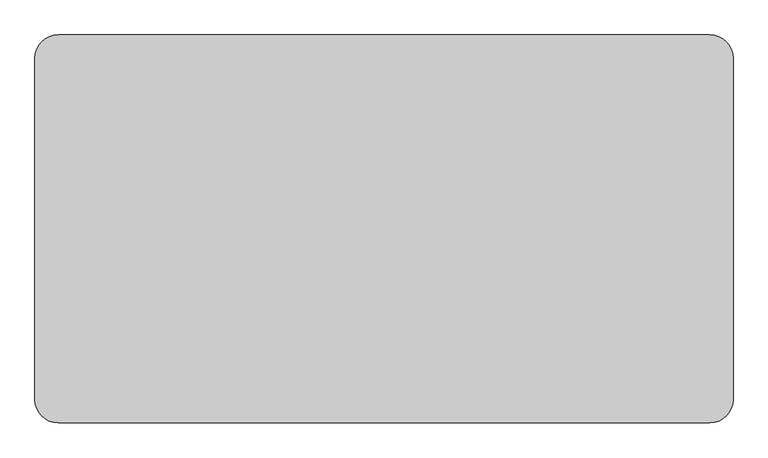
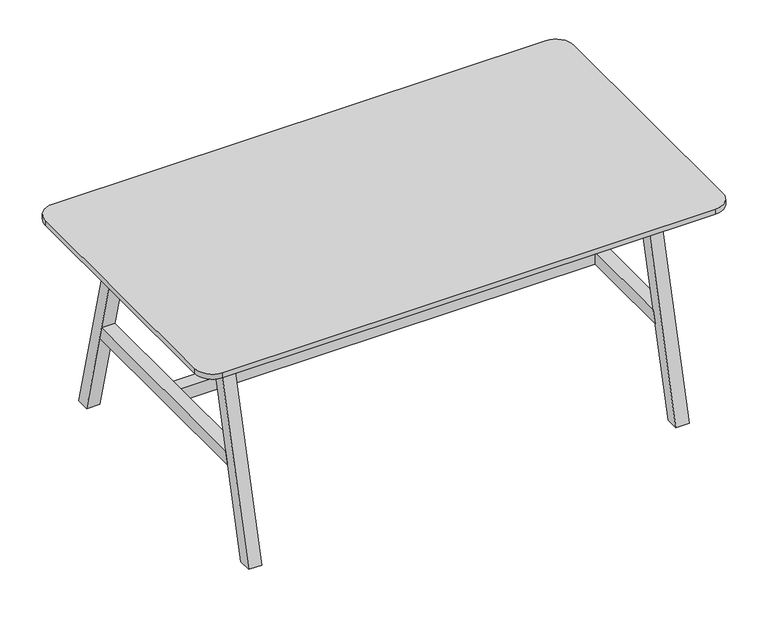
"""IFC4 building model written with IfcOpenShell, lengths in millimetres: furniture geometry, BDG_BossDesign_Tbls_AgentTables4Legs : AGE-DT-1800-1000-3D."""

import ifcopenshell
import ifcopenshell.guid

model = None  # the IFC model being written
_history = None  # IfcOwnerHistory: only IFC2X3 demands one
_inside = {}  # id of a spatial element -> (the spatial element, [elements in it])
_under = {}  # id of a project, library or spatial element -> (it, [spatial elements below it])
_declared = {}  # id of a project -> (the project, [libraries it declares])
_typed = {}  # id of a type object -> (the type object, [elements of that type])
_made_of = {}  # id of a material, layer set ... -> (it, [elements and type objects made of it])


def new_model(schema):
    """Start an empty IFC model of exactly this schema.

    Asked for "IFC4X3", IfcOpenShell would pick the latest addendum, in which some entities
    have other attributes; the version numbers below select the first issue.
    IFC2X3 requires an IfcOwnerHistory on every rooted entity: one is made here for all.
    """
    global model, _history
    if schema == "IFC4X3":
        model = ifcopenshell.file(schema_version=(4, 3, 0, 0))
    else:
        model = ifcopenshell.file(schema=schema)
    _inside.clear()
    _under.clear()
    _declared.clear()
    _typed.clear()
    _made_of.clear()
    _history = None
    if model.schema == "IFC2X3":
        org = make("IfcOrganization", Name="unknown")
        user = make(
            "IfcPersonAndOrganization",
            ThePerson=make("IfcPerson", FamilyName="unknown"),
            TheOrganization=org,
        )
        app = make(
            "IfcApplication",
            ApplicationDeveloper=org,
            Version="unknown",
            ApplicationFullName="unknown",
            ApplicationIdentifier="unknown",
        )
        _history = make(
            "IfcOwnerHistory",
            OwningUser=user,
            OwningApplication=app,
            ChangeAction="ADDED",
            CreationDate=0,
        )
    return model


def make(cls, **values):
    """One entity of the class cls with the attributes given. An attribute that is None is left unset."""
    return model.create_entity(
        cls, **{name: value for name, value in values.items() if value is not None}
    )


def rooted(cls, **values):
    """An entity with a GlobalId (a new one), such as an element, a storey or a relation."""
    return make(cls, GlobalId=ifcopenshell.guid.new(), OwnerHistory=_history, **values)


def si_unit(unit_type, name, prefix=None):
    """IfcSIUnit, for example si_unit("LENGTHUNIT", "METRE", prefix="MILLI")."""
    return make("IfcSIUnit", UnitType=unit_type, Prefix=prefix, Name=name)


def assignment(units):
    """IfcUnitAssignment: the units of a project."""
    return None if units is None else make("IfcUnitAssignment", Units=units)


def point(xyz):
    """IfcCartesianPoint."""
    return None if xyz is None else make("IfcCartesianPoint", Coordinates=xyz)


def direction(xyz):
    """IfcDirection."""
    return None if xyz is None else make("IfcDirection", DirectionRatios=xyz)


def frame(location, z_axis=None, x_axis=None):
    """IfcAxis2Placement3D, a coordinate frame: its origin and axes. An axis left out is left unset."""
    return make(
        "IfcAxis2Placement3D",
        Location=point(location),
        Axis=direction(z_axis),
        RefDirection=direction(x_axis),
    )


def frame_2d(location, x_axis=None):
    """IfcAxis2Placement2D, a coordinate frame in the plane: its origin and x axis."""
    return make(
        "IfcAxis2Placement2D", Location=point(location), RefDirection=direction(x_axis)
    )


def origin():
    """The frame at (0, 0, 0) with its axes left unset."""
    return frame((0.0, 0.0, 0.0))


def place(relative_to, where):
    """IfcLocalPlacement: puts the frame where relative to a parent placement (None: the world)."""
    return make(
        "IfcLocalPlacement", PlacementRelTo=relative_to, RelativePlacement=where
    )


def context(
    kind, dimensions, precision=None, world=None, true_north=None, identifier=None
):
    """IfcGeometricRepresentationContext, for example the 3D "Model" context."""
    return make(
        "IfcGeometricRepresentationContext",
        ContextIdentifier=identifier,
        ContextType=kind,
        CoordinateSpaceDimension=dimensions,
        Precision=precision,
        WorldCoordinateSystem=world,
        TrueNorth=true_north,
    )


def project(units=None, contexts=None):
    """IfcProject with its units and contexts."""
    return rooted(
        "IfcProject",
        Name="project",
        RepresentationContexts=contexts,
        UnitsInContext=assignment(units),
    )


def spatial(cls, under=None, at=None, **own):
    """A site, building, storey or space (cls), placed at a placement, below another one or the project."""
    s = rooted(cls, ObjectPlacement=at, **own)
    if under is not None:
        _under.setdefault(under.id(), (under, []))[1].append(s)
    return s


def polyline(points):
    """IfcPolyline through the points."""
    return make("IfcPolyline", Points=[point(p) for p in points])


def circle_curve(where, radius):
    """IfcCircle in the frame where."""
    return make("IfcCircle", Position=where, Radius=radius)


def trimmed(basis, trim1, trim2, sense, master):
    """IfcTrimmedCurve: the piece of a basis curve between two trims."""
    return make(
        "IfcTrimmedCurve",
        BasisCurve=basis,
        Trim1=trim1,
        Trim2=trim2,
        SenseAgreement=sense,
        MasterRepresentation=master,
    )


def segment(curve, same_sense, transition):
    """IfcCompositeCurveSegment."""
    return make(
        "IfcCompositeCurveSegment",
        Transition=transition,
        SameSense=same_sense,
        ParentCurve=curve,
    )


def composite_curve(segments, self_intersect=None):
    """IfcCompositeCurve: segments joined end to end."""
    return make("IfcCompositeCurve", Segments=segments, SelfIntersect=self_intersect)


def outline(outer, holes=None, kind="AREA"):
    """IfcArbitraryClosedProfileDef: a profile drawn as a closed curve; with holes, ...WithVoids."""
    if holes is None:
        return make("IfcArbitraryClosedProfileDef", ProfileType=kind, OuterCurve=outer)
    return make(
        "IfcArbitraryProfileDefWithVoids",
        ProfileType=kind,
        OuterCurve=outer,
        InnerCurves=holes,
    )


def extrude(swept, where, along, depth):
    """IfcExtrudedAreaSolid: the profile swept, set in the frame where, extruded along a direction by depth."""
    return make(
        "IfcExtrudedAreaSolid",
        SweptArea=swept,
        Position=where,
        ExtrudedDirection=direction(along),
        Depth=depth,
    )


def shape(context_of_items, identifier, shape_type, items):
    """IfcShapeRepresentation: the items that make up one representation, for example the "Body"."""
    return make(
        "IfcShapeRepresentation",
        ContextOfItems=context_of_items,
        RepresentationIdentifier=identifier,
        RepresentationType=shape_type,
        Items=items,
    )


def source(mapping_origin, context_of_items, identifier, shape_type, items):
    """IfcRepresentationMap: a shape defined once, which mapped items show again and again."""
    return make(
        "IfcRepresentationMap",
        MappingOrigin=mapping_origin,
        MappedRepresentation=shape(context_of_items, identifier, shape_type, items),
    )


def transform(
    local_origin,
    x_axis=None,
    y_axis=None,
    z_axis=None,
    scale=None,
    scale2=None,
    scale3=None,
    uniform=True,
):
    """IfcCartesianTransformationOperator3D, or its non-uniform kind. x_axis, y_axis, z_axis: its Axis1, 2, 3."""
    if uniform:
        return make(
            "IfcCartesianTransformationOperator3D",
            Axis1=direction(x_axis),
            Axis2=direction(y_axis),
            LocalOrigin=point(local_origin),
            Scale=scale,
            Axis3=direction(z_axis),
        )
    return make(
        "IfcCartesianTransformationOperator3DnonUniform",
        Axis1=direction(x_axis),
        Axis2=direction(y_axis),
        LocalOrigin=point(local_origin),
        Scale=scale,
        Axis3=direction(z_axis),
        Scale2=scale2,
        Scale3=scale3,
    )


def mapped(mapping_source, mapping_target):
    """IfcMappedItem: shows the shape of a source again, moved by a transform."""
    return make(
        "IfcMappedItem", MappingSource=mapping_source, MappingTarget=mapping_target
    )


def made_of(thing, what):
    """Note that an element or type object is made of a material, layer set ...; save() writes the relation."""
    if what is not None:
        _made_of.setdefault(what.id(), (what, []))[1].append(thing)
    return thing


def element(
    cls,
    number,
    at=None,
    inside=None,
    cuts=None,
    type_object=None,
    material=None,
    context=None,
    identifier="Body",
    shape_type=None,
    held_by="IfcProductDefinitionShape",
    body=None,
    shapes=None,
    **own,
):
    """One element of the class cls, such as IfcWall. Its Tag is "e" and its number.

    at: its placement. inside: the storey or other place that contains it. cuts: it is an
    opening in that element (IfcRelVoidsElement). A single representation is given by context,
    identifier, shape_type and body (its items); several are given by shapes. held_by: the class
    of the entity that holds the representations. save() writes the other relations.
    """
    e = rooted(cls, Tag="e%d" % number, ObjectPlacement=at, **own)
    if body is not None:
        shapes = [shape(context, identifier, shape_type, body)]
    if shapes is not None:
        e.Representation = make(held_by, Representations=shapes)
    if inside is not None:
        _inside.setdefault(inside.id(), (inside, []))[1].append(e)
    if cuts is not None:
        rooted(
            "IfcRelVoidsElement", RelatingBuildingElement=cuts, RelatedOpeningElement=e
        )
    if type_object is not None:
        _typed.setdefault(type_object.id(), (type_object, []))[1].append(e)
    return made_of(e, material)


def aggregate(whole, parts):
    """IfcRelAggregates: a whole, such as a stair, and the parts it consists of."""
    return rooted("IfcRelAggregates", RelatingObject=whole, RelatedObjects=parts)


def save(model, path):
    """Write the relations noted so far, then the file.

    IfcRelAggregates (storeys below a building ...), IfcRelContainedInSpatialStructure (elements
    in a storey), IfcRelDefinesByType, IfcRelAssociatesMaterial and IfcRelDeclares: one each for
    every whole, place, type object, material and project.
    """
    for whole, parts in _under.values():
        aggregate(whole, parts)
    for where, things in _inside.values():
        rooted(
            "IfcRelContainedInSpatialStructure",
            RelatedElements=things,
            RelatingStructure=where,
        )
    for kind, things in _typed.values():
        rooted("IfcRelDefinesByType", RelatedObjects=things, RelatingType=kind)
    for what, things in _made_of.values():
        rooted("IfcRelAssociatesMaterial", RelatedObjects=things, RelatingMaterial=what)
    for by, libraries in _declared.values():
        rooted("IfcRelDeclares", RelatingContext=by, RelatedDefinitions=libraries)
    model.write(path)


def furniture_c43a80fd(model_context):
    return source(origin(), model_context, "Body", "SweptSolid", [
        extrude(outline(polyline([(-366.3977249, 345.0), (366.3977249, 345.0), (377.9545427, 300.0), (-377.9545427, 300.0), (-366.3977249, 345.0)])), frame((705.0, 0.0, 0.0), z_axis=(1.0, 0.0, 0.0), x_axis=(0.0, 1.0, 0.0)), (0.0, 0.0, 1.0), 45.0),
        extrude(outline(polyline([(500.0, 0.0), (454.9999949, 0.0), (285.5, 660.0), (330.5000051, 660.0), (500.0, 0.0)])), frame((-750.0, 0.0, 0.0), z_axis=(1.0, 0.0, 0.0), x_axis=(0.0, 1.0, 0.0)), (0.0, 0.0, 1.0), 45.0),
        extrude(outline(polyline([(-500.0, 0.0), (-330.5000051, 660.0), (-285.5, 660.0), (-454.9999949, 0.0), (-500.0, 0.0)])), frame((-750.0, 0.0, 0.0), z_axis=(1.0, 0.0, 0.0), x_axis=(0.0, 1.0, 0.0)), (0.0, 0.0, 1.0), 45.0),
        extrude(outline(polyline([(-279.5, 722.0), (279.5, 722.0), (297.9691272, 650.0), (-297.9691272, 650.0), (-279.5, 722.0)])), frame((288.0, 0.0, 0.0), z_axis=(1.0, 0.0, 0.0), x_axis=(0.0, 1.0, 0.0)), (0.0, 0.0, 1.0), 24.0),
        extrude(outline(polyline([(-366.3977249, 345.0), (366.3977249, 345.0), (377.9545427, 300.0), (-377.9545427, 300.0), (-366.3977249, 345.0)])), frame((-750.0, 0.0, 0.0), z_axis=(1.0, 0.0, 0.0), x_axis=(0.0, 1.0, 0.0)), (0.0, 0.0, 1.0), 45.0),
        extrude(outline(polyline([(-279.5, 722.0), (279.5, 722.0), (297.9691272, 650.0), (-297.9691272, 650.0), (-279.5, 722.0)])), frame((-312.0, 0.0, 0.0), z_axis=(1.0, 0.0, 0.0), x_axis=(0.0, 1.0, 0.0)), (0.0, 0.0, 1.0), 24.0),
        extrude(outline(polyline([(-326.6006165, 634.973938), (-304.2770691, 722.0), (-279.5, 722.0), (-301.8235474, 634.973938), (-326.6006165, 634.973938)])), frame((-705.0, 0.0, 0.0), z_axis=(1.0, 0.0, 0.0), x_axis=(0.0, 1.0, 0.0)), (0.0, 0.0, 1.0), 1410.0),
        extrude(outline(polyline([(326.6006165, 634.973938), (301.8235474, 634.973938), (279.5, 722.0), (304.2770691, 722.0), (326.6006165, 634.973938)])), frame((-705.0, 0.0, 0.0), z_axis=(1.0, 0.0, 0.0), x_axis=(0.0, 1.0, 0.0)), (0.0, 0.0, 1.0), 1410.0),
        extrude(outline(polyline([(499.7999878, 0.0), (454.7999827, 0.0), (285.5, 660.0), (330.5000051, 660.0), (499.7999878, 0.0)])), frame((705.0, 0.0, 0.0), z_axis=(1.0, 0.0, 0.0), x_axis=(0.0, 1.0, 0.0)), (0.0, 0.0, 1.0), 45.0),
        extrude(outline(polyline([(-499.7999878, 0.0), (-330.5000051, 660.0), (-285.5, 660.0), (-454.7999827, 0.0), (-499.7999878, 0.0)])), frame((705.0, 0.0, 0.0), z_axis=(1.0, 0.0, 0.0), x_axis=(0.0, 1.0, 0.0)), (0.0, 0.0, 1.0), 45.0),
        extrude(outline(polyline([(705.0, 22.5000305), (705.0, -22.5000305), (-705.0, -22.5000305), (-705.0, 22.5000305), (705.0, 22.5000305)])), frame((0.0, 0.0, 300.0), z_axis=(0.0, 0.0, 1.0), x_axis=(1.0, 0.0, 0.0)), (0.0, 0.0, 1.0), 45.0),
        extrude(outline(composite_curve([segment(trimmed(circle_curve(frame_2d((840.0, 440.0)), 60.0), [point((840.0, 500.0))], [point((900.0, 440.0))], False, "CARTESIAN"), True, "CONTINUOUS"), segment(polyline([(900.0, 440.0), (900.0, -440.0)]), True, "CONTINUOUS"), segment(trimmed(circle_curve(frame_2d((840.0, -440.0)), 60.0), [point((900.0, -440.0))], [point((840.0, -500.0))], False, "CARTESIAN"), True, "CONTINUOUS"), segment(polyline([(840.0, -500.0), (-840.0, -500.0)]), True, "CONTINUOUS"), segment(trimmed(circle_curve(frame_2d((-840.0, -440.0)), 60.0), [point((-840.0, -500.0))], [point((-900.0, -440.0))], False, "CARTESIAN"), True, "CONTINUOUS"), segment(polyline([(-900.0, -440.0), (-900.0, 440.0)]), True, "CONTINUOUS"), segment(trimmed(circle_curve(frame_2d((-840.0, 440.0)), 60.0), [point((-900.0, 440.0))], [point((-840.0, 500.0))], False, "CARTESIAN"), True, "CONTINUOUS"), segment(polyline([(-840.0, 500.0), (840.0, 500.0)]), True, "CONTINUOUS")], self_intersect=False)), frame((0.0, 0.0, 722.0), z_axis=(0.0, 0.0, 1.0), x_axis=(1.0, 0.0, 0.0)), (0.0, 0.0, 1.0), 18.0),
    ])


if __name__ == "__main__":
    model = new_model("IFC4")
    model_context = context("Model", 3, world=origin())
    ifc_project = project(units=[si_unit("LENGTHUNIT", "METRE", prefix="MILLI")], contexts=[model_context])
    site = spatial("IfcSite", under=ifc_project)
    building = spatial("IfcBuilding", under=site)
    placement = place(None, origin())
    furniture_shape = furniture_c43a80fd(model_context)
    element("IfcFurniture", 1, ObjectType="BDG_BossDesign_Tbls_AgentTables4Legs : AGE-DT-1800-1000-3D", at=placement, inside=building, context=model_context, shape_type="MappedRepresentation", body=[
        mapped(furniture_shape, transform((0.0, 0.0, 0.0), x_axis=(1.0, 0.0, 0.0), y_axis=(0.0, 1.0, 0.0), z_axis=(0.0, 0.0, 1.0))),
    ])
    save(model, "model.ifc")
